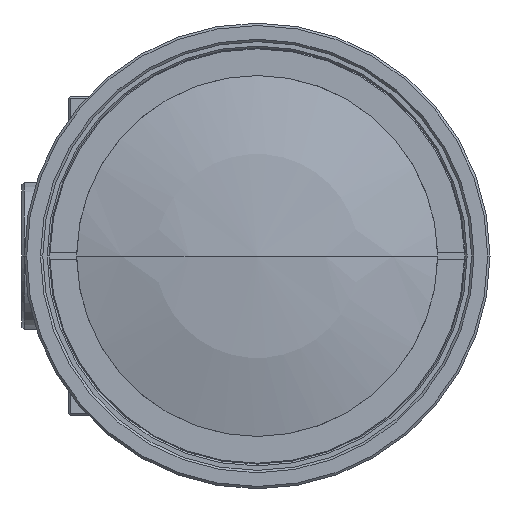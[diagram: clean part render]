
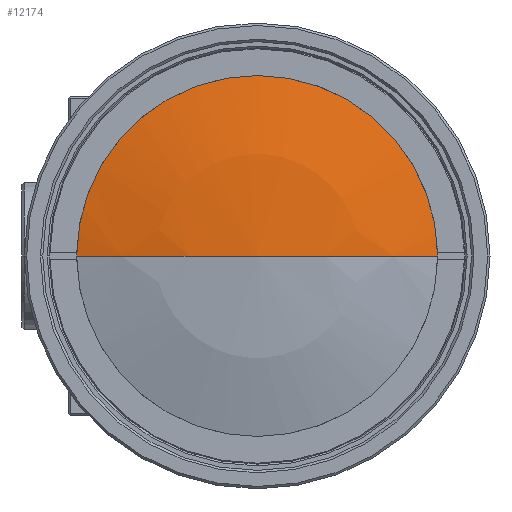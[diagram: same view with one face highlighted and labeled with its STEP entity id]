
A CAD part, left-side view. The second image highlights one B-rep face of the part: STEP entity #12174.
In plain terms, the highlighted spherical face has radius 89.618 mm.
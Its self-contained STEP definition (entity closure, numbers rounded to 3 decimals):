
#40=CARTESIAN_POINT('',(12.147,0.,0.));
#41=DIRECTION('',(0.,0.,1.));
#42=DIRECTION('',(-0.957,0.29,0.));
#43=AXIS2_PLACEMENT_3D('',#40,#41,#42);
#45=CARTESIAN_POINT('',(-73.616,0.,0.));
#46=DIRECTION('',(1.,0.,0.));
#47=DIRECTION('',(0.,1.,0.));
#48=AXIS2_PLACEMENT_3D('',#45,#46,#47);
#50=CARTESIAN_POINT('',(12.147,0.,0.));
#51=DIRECTION('',(0.,0.,-1.));
#52=DIRECTION('',(-0.957,-0.29,0.));
#53=AXIS2_PLACEMENT_3D('',#50,#51,#52);
#10354=CARTESIAN_POINT('',(-73.616,26.,0.));
#10355=CARTESIAN_POINT('',(-77.471,0.,0.));
#10356=VERTEX_POINT('',#10354);
#10357=VERTEX_POINT('',#10355);
#10358=CARTESIAN_POINT('',(-73.616,-26.,0.));
#10359=VERTEX_POINT('',#10358);
#12162=CARTESIAN_POINT('',(12.147,0.,0.));
#12163=DIRECTION('',(-1.,0.,0.));
#12164=DIRECTION('',(0.,1.,0.));
#12165=AXIS2_PLACEMENT_3D('',#12162,#12163,#12164);
#12166=SPHERICAL_SURFACE('',#12165,89.618);
#12168=ORIENTED_EDGE('',*,*,#12167,.F.);
#12169=ORIENTED_EDGE('',*,*,#12149,.T.);
#12171=ORIENTED_EDGE('',*,*,#12170,.T.);
#12172=EDGE_LOOP('',(#12168,#12169,#12171));
#12173=FACE_OUTER_BOUND('',#12172,.F.);
#44=CIRCLE('',#43,89.618);
#49=CIRCLE('',#48,26.);
#54=CIRCLE('',#53,89.618);
#12149=EDGE_CURVE('',#10356,#10359,#49,.T.);
#12167=EDGE_CURVE('',#10356,#10357,#44,.T.);
#12170=EDGE_CURVE('',#10359,#10357,#54,.T.);
#12174=ADVANCED_FACE('',(#12173),#12166,.T.);
